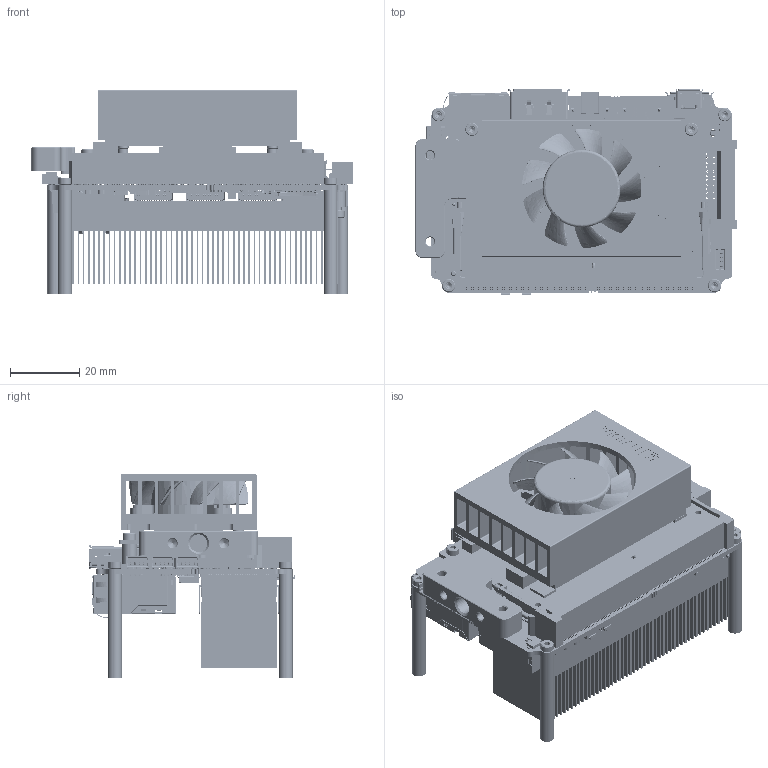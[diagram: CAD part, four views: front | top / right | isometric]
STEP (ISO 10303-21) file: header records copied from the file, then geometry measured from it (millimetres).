
FILE_DESCRIPTION(/* description */ (''),/* implementation_level */ '2;1');
FILE_NAME(/* name */ 'XEC-NX-3P-X2G3-ORIN-16GB-KIT_01-STP.stp',/* time_stamp */ '2025-08-26T18:26:21+02:00',/* author */ (''),/* organization */ (''),/* preprocessor_version */ 'ST-DEVELOPER v20',/* originating_system */ 'SIEMENS PLM Software NX2406.8500',/* authorisation */ '');
FILE_SCHEMA (('AUTOMOTIVE_DESIGN { 1 0 10303 214 3 1 1 1 }'));
Products named in the file (14): 006550_01_1-STANDOFF-RND-F-F-M2X30MM-NY; 001352_01_1-TP-10X10X3-TGA3500; 001344_01_1-TP-15X15X1-TGA2200; 006366_01_1-TP-20X20X0.5-TGA1780; 001071_01_1-SROB-M2X4-IMBUS-STNLS; 006365_01_1-AXAGON-CLR-M2XT-HEATSINK; 005815_01_1-FAN-NVIDIA-JETSON-ORIN; 001076_01_1-SROB-M2X6-IMBUS-STNLS; 001022_01_1-SROB-M2X6-CSK-TX-STNLS; 002049_01_1-MECH-XEC-NX-ORIN-INS; 004598_02_1-XEC-NX-3P-X2G3-PCA; 005715_01_1-NVIDIA-JETSON-NX-ORIN; 002050_01_1-M2-NVME-SSD-2280; 002047_01_1-XEC-NX-3P-X2G3-ORIN-16GB-KIT
Assembly tree (24 placements, depth 2):
  002047_01_1-XEC-NX-3P-X2G3-ORIN-16GB-KIT
    002050_01_1-M2-NVME-SSD-2280
    005715_01_1-NVIDIA-JETSON-NX-ORIN
    004598_02_1-XEC-NX-3P-X2G3-PCA
    002049_01_1-MECH-XEC-NX-ORIN-INS
    001022_01_1-SROB-M2X6-CSK-TX-STNLS
    001076_01_1-SROB-M2X6-IMBUS-STNLS  x3
    005815_01_1-FAN-NVIDIA-JETSON-ORIN
    006365_01_1-AXAGON-CLR-M2XT-HEATSINK
    001071_01_1-SROB-M2X4-IMBUS-STNLS  x7
    006366_01_1-TP-20X20X0.5-TGA1780
    001344_01_1-TP-15X15X1-TGA2200
    001352_01_1-TP-10X10X3-TGA3500
    006550_01_1-STANDOFF-RND-F-F-M2X30MM-NY  x4
Bounding box: 93.04 x 59.59 x 58.9 mm (x, y, z)
Volume: 81961.3 mm3; surface area: 137574.6 mm2
Topology: 707 solids, 717 shells, 53036 faces, 136245 edges, 83359 vertices
Faces by surface type: plane 29827, cylinder 17804, sphere 4289, bspline 728, cone 254, torus 93, extrusion 41
Full cylindrical faces by diameter (mm): 0.15 x3, 0.361 x1, 0.457 x30, 0.5 x28, 0.6 x4, 0.636 x30, 0.7 x12, 0.75 x6, 0.8 x6, 0.812 x4, 0.89 x6, 0.9 x18, 1 x1, 1.1 x1, 1.15 x1, 1.16 x6, 1.2 x2, 1.25 x1, 1.3 x15, 1.4 x1, 1.6 x5, 1.65 x1, 1.7 x2, 1.8 x4, 2 x21, 2.1 x8, 2.3 x2, 2.5 x4, 3 x3, 3.05 x4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
Entity records: 1751228 total; most frequent: CARTESIAN_POINT 352806, ORIENTED_EDGE 267120, DIRECTION 249466, EDGE_CURVE 133560, VECTOR 92588, LINE 92547, VERTEX_POINT 82889, AXIS2_PLACEMENT_3D 78439
